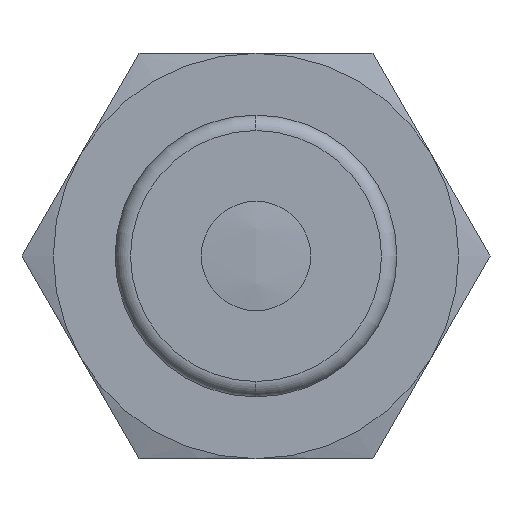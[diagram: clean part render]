
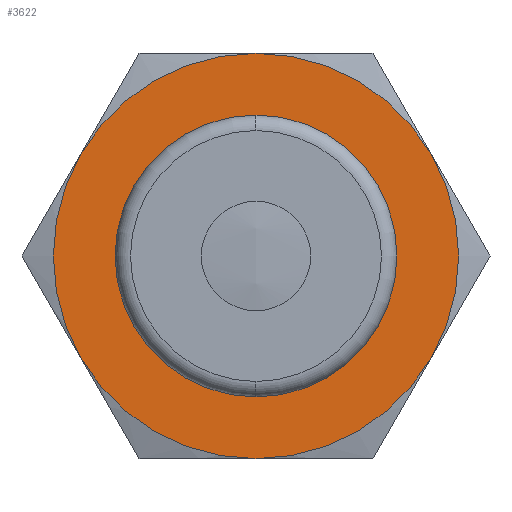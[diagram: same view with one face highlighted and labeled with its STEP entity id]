
A CAD part, left-side view. The second image highlights one B-rep face of the part: STEP entity #3622.
In plain terms, the highlighted planar face has unit normal (-1, 0, 0).
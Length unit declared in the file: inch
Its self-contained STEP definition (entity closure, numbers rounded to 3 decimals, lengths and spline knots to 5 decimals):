
#3366=CARTESIAN_POINT('',(-0.63,0.565,0.));
#3367=VERTEX_POINT('',#3366);
#3384=CARTESIAN_POINT('',(-0.63,-0.565,0.));
#3385=VERTEX_POINT('',#3384);
#3392=CARTESIAN_POINT('',(-0.63,0.0,0.));
#3393=DIRECTION('',(1.0,0.0,0.0));
#3394=DIRECTION('',(0.0,1.0,0.0));
#3395=AXIS2_PLACEMENT_3D('',#3392,#3393,#3394);
#3396=CIRCLE('',#3395,0.565);
#3397=EDGE_CURVE('',#3367,#3385,#3396,.T.);
#3551=CARTESIAN_POINT('',(-0.63,0.,0.));
#3552=DIRECTION('',(-1.0,0.0,0.0));
#3553=DIRECTION('',(0.0,0.0,1.0));
#3554=AXIS2_PLACEMENT_3D('',#3551,#3552,#3553);
#3555=PLANE('',#3554);
#3556=CARTESIAN_POINT('',(-0.63,0.70365,-0.40625));
#3557=VERTEX_POINT('',#3556);
#3558=CARTESIAN_POINT('',(-0.63,0.0,-0.8125));
#3559=VERTEX_POINT('',#3558);
#3560=CARTESIAN_POINT('',(-0.63,0.0,0.));
#3561=DIRECTION('',(-1.0,0.0,0.0));
#3562=DIRECTION('',(0.0,0.0,1.0));
#3563=AXIS2_PLACEMENT_3D('',#3560,#3561,#3562);
#3564=CIRCLE('',#3563,0.8125);
#3565=EDGE_CURVE('',#3557,#3559,#3564,.T.);
#3566=ORIENTED_EDGE('',*,*,#3565,.T.);
#3567=CARTESIAN_POINT('',(-0.63,-0.70365,-0.40625));
#3568=VERTEX_POINT('',#3567);
#3569=CARTESIAN_POINT('',(-0.63,0.0,0.));
#3570=DIRECTION('',(-1.0,0.0,0.0));
#3571=DIRECTION('',(0.0,0.0,1.0));
#3572=AXIS2_PLACEMENT_3D('',#3569,#3570,#3571);
#3573=CIRCLE('',#3572,0.8125);
#3574=EDGE_CURVE('',#3559,#3568,#3573,.T.);
#3575=ORIENTED_EDGE('',*,*,#3574,.T.);
#3576=CARTESIAN_POINT('',(-0.63,-0.70365,0.40625));
#3577=VERTEX_POINT('',#3576);
#3578=CARTESIAN_POINT('',(-0.63,0.0,0.));
#3579=DIRECTION('',(-1.0,0.0,0.0));
#3580=DIRECTION('',(0.0,0.0,1.0));
#3581=AXIS2_PLACEMENT_3D('',#3578,#3579,#3580);
#3582=CIRCLE('',#3581,0.8125);
#3583=EDGE_CURVE('',#3568,#3577,#3582,.T.);
#3584=ORIENTED_EDGE('',*,*,#3583,.T.);
#3585=CARTESIAN_POINT('',(-0.63,0.0,0.8125));
#3586=VERTEX_POINT('',#3585);
#3587=CARTESIAN_POINT('',(-0.63,0.0,0.));
#3588=DIRECTION('',(-1.0,0.0,0.0));
#3589=DIRECTION('',(0.0,0.0,1.0));
#3590=AXIS2_PLACEMENT_3D('',#3587,#3588,#3589);
#3591=CIRCLE('',#3590,0.8125);
#3592=EDGE_CURVE('',#3577,#3586,#3591,.T.);
#3593=ORIENTED_EDGE('',*,*,#3592,.T.);
#3594=CARTESIAN_POINT('',(-0.63,0.70365,0.40625));
#3595=VERTEX_POINT('',#3594);
#3596=CARTESIAN_POINT('',(-0.63,0.0,0.));
#3597=DIRECTION('',(-1.0,0.0,0.0));
#3598=DIRECTION('',(0.0,0.0,1.0));
#3599=AXIS2_PLACEMENT_3D('',#3596,#3597,#3598);
#3600=CIRCLE('',#3599,0.8125);
#3601=EDGE_CURVE('',#3586,#3595,#3600,.T.);
#3602=ORIENTED_EDGE('',*,*,#3601,.T.);
#3603=CARTESIAN_POINT('',(-0.63,0.0,0.));
#3604=DIRECTION('',(-1.0,0.0,0.0));
#3605=DIRECTION('',(0.0,0.0,1.0));
#3606=AXIS2_PLACEMENT_3D('',#3603,#3604,#3605);
#3607=CIRCLE('',#3606,0.8125);
#3608=EDGE_CURVE('',#3595,#3557,#3607,.T.);
#3609=ORIENTED_EDGE('',*,*,#3608,.T.);
#3610=EDGE_LOOP('',(#3566,#3575,#3584,#3593,#3602,#3609));
#3611=FACE_OUTER_BOUND('',#3610,.T.);
#3612=ORIENTED_EDGE('',*,*,#3397,.T.);
#3613=CARTESIAN_POINT('',(-0.63,0.0,0.));
#3614=DIRECTION('',(1.0,0.0,0.0));
#3615=DIRECTION('',(0.0,1.0,0.0));
#3616=AXIS2_PLACEMENT_3D('',#3613,#3614,#3615);
#3617=CIRCLE('',#3616,0.565);
#3618=EDGE_CURVE('',#3385,#3367,#3617,.T.);
#3619=ORIENTED_EDGE('',*,*,#3618,.T.);
#3620=EDGE_LOOP('',(#3612,#3619));
#3621=FACE_BOUND('',#3620,.T.);
#3622=ADVANCED_FACE('',(#3611,#3621),#3555,.T.);
